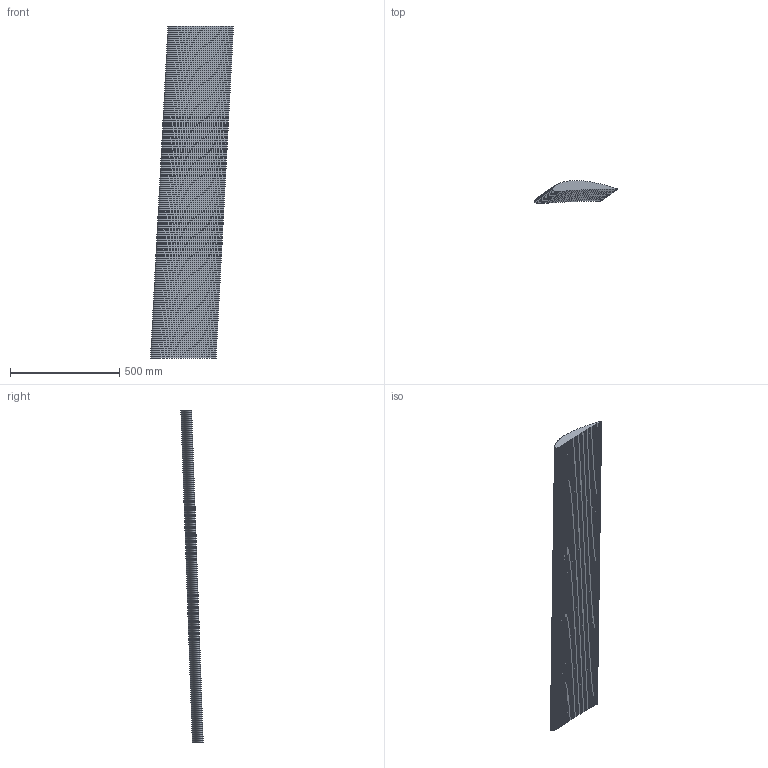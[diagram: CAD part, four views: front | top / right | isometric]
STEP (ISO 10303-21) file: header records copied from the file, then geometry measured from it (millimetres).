
FILE_DESCRIPTION(('FreeCAD Model'),'2;1');
FILE_NAME('Open CASCADE Shape Model','2023-08-12T23:55:55',('Author'),( ''),'Open CASCADE STEP processor 7.6','FreeCAD','Unknown');
FILE_SCHEMA(('AUTOMOTIVE_DESIGN { 1 0 10303 214 1 1 1 1 }'));
Length unit declared in the file: millimetre
Products named in the file (1): Pad
Bounding box: 380 x 102.53 x 1520 mm (x, y, z)
Volume: 14050588.7 mm3; surface area: 966202.7 mm2
Topology: 1 solids, 1 shells, 101 faces, 297 edges, 198 vertices
Faces by surface type: plane 101
Entity records: 3313 total; most frequent: CARTESIAN_POINT 597, ORIENTED_EDGE 594, DIRECTION 501, EDGE_CURVE 297, LINE 297, VECTOR 297, VERTEX_POINT 198, AXIS2_PLACEMENT_3D 102
